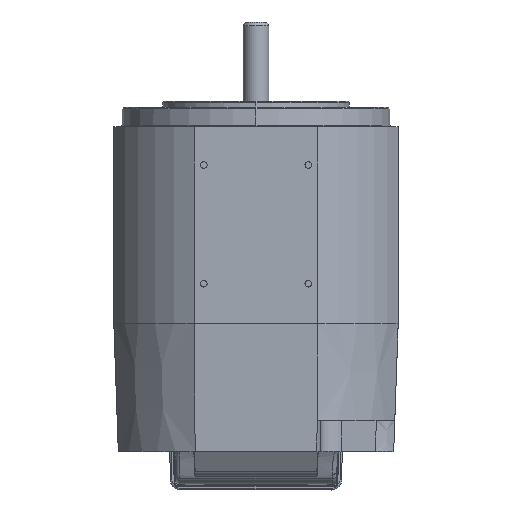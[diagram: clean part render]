
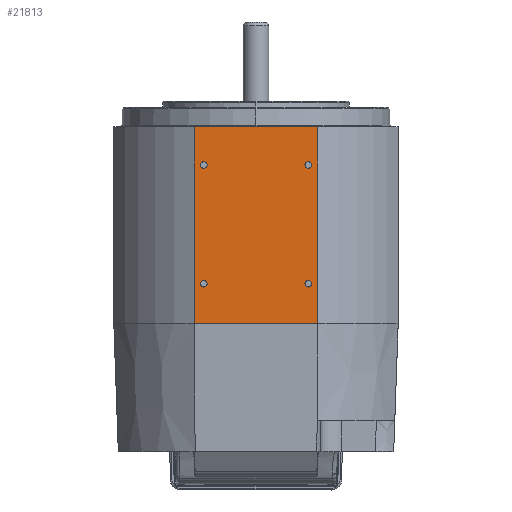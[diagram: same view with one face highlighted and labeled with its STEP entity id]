
A CAD part, top view. The second image highlights one B-rep face of the part: STEP entity #21813.
In plain terms, the highlighted planar face has unit normal (0, 0, 1).
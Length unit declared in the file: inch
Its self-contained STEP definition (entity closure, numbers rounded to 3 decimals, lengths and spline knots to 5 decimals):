
#36 = CARTESIAN_POINT ( 'NONE',  ( 1.49107, -9.99149, 3.42991 ) ) ;
#462 = AXIS2_PLACEMENT_3D ( 'NONE', #5227, #60216, #50311 ) ;
#2071 = ORIENTED_EDGE ( 'NONE', *, *, #41430, .T. ) ;
#2311 = CARTESIAN_POINT ( 'NONE',  ( -1.26, 0.7, 3.42991 ) ) ;
#3081 = ORIENTED_EDGE ( 'NONE', *, *, #6481, .F. ) ;
#3279 = DIRECTION ( 'NONE',  ( 0., 0., 1. ) ) ;
#4234 = CIRCLE ( 'NONE', #62382, 0.0795 ) ;
#4282 = VERTEX_POINT ( 'NONE', #39814 ) ;
#4507 = LINE ( 'NONE', #19719, #29313 ) ;
#4517 = CARTESIAN_POINT ( 'NONE',  ( 1.49107, 4.485, 3.42991 ) ) ;
#4612 = EDGE_LOOP ( 'NONE', ( #3081, #8931 ) ) ;
#5227 = CARTESIAN_POINT ( 'NONE',  ( 1.261, 3.565, 3.42991 ) ) ;
#6000 = VERTEX_POINT ( 'NONE', #11815 ) ;
#6308 = ORIENTED_EDGE ( 'NONE', *, *, #60283, .F. ) ;
#6445 = LINE ( 'NONE', #46871, #24601 ) ;
#6481 = EDGE_CURVE ( 'NONE', #36935, #4282, #51901, .T. ) ;
#6584 = VERTEX_POINT ( 'NONE', #9193 ) ;
#7264 = CARTESIAN_POINT ( 'NONE',  ( 1.261, 0.7, 3.42991 ) ) ;
#8016 = VECTOR ( 'NONE', #15860, 39.37008 ) ;
#8045 = EDGE_LOOP ( 'NONE', ( #13233, #6308 ) ) ;
#8527 = EDGE_CURVE ( 'NONE', #6584, #48622, #48987, .T. ) ;
#8931 = ORIENTED_EDGE ( 'NONE', *, *, #30524, .F. ) ;
#9193 = CARTESIAN_POINT ( 'NONE',  ( -1.1805, 3.565, 3.42991 ) ) ;
#9779 = DIRECTION ( 'NONE',  ( 0., 0., 1. ) ) ;
#10224 = VERTEX_POINT ( 'NONE', #24162 ) ;
#10526 = AXIS2_PLACEMENT_3D ( 'NONE', #21165, #26757, #17212 ) ;
#11815 = CARTESIAN_POINT ( 'NONE',  ( 1.49107, -0.26545, 3.42991 ) ) ;
#12116 = LINE ( 'NONE', #32600, #18680 ) ;
#12826 = ORIENTED_EDGE ( 'NONE', *, *, #43771, .F. ) ;
#13233 = ORIENTED_EDGE ( 'NONE', *, *, #48499, .F. ) ;
#13326 = VERTEX_POINT ( 'NONE', #29714 ) ;
#13797 = AXIS2_PLACEMENT_3D ( 'NONE', #63208, #46986, #52939 ) ;
#14539 = PLANE ( 'NONE',  #19475 ) ;
#15216 = EDGE_CURVE ( 'NONE', #49907, #59377, #12116, .T. ) ;
#15290 = DIRECTION ( 'NONE',  ( 1., 0., 0. ) ) ;
#15860 = DIRECTION ( 'NONE',  ( 0., 1., 0. ) ) ;
#16061 = CIRCLE ( 'NONE', #39335, 0.0795 ) ;
#16857 = CARTESIAN_POINT ( 'NONE',  ( -1.49107, -9.99149, 3.42991 ) ) ;
#17212 = DIRECTION ( 'NONE',  ( 1., 0., 0. ) ) ;
#18319 = EDGE_LOOP ( 'NONE', ( #47237, #2071, #59119, #48233 ) ) ;
#18680 = VECTOR ( 'NONE', #27992, 39.37008 ) ;
#18717 = CARTESIAN_POINT ( 'NONE',  ( -1.3395, 0.7, 3.42991 ) ) ;
#19475 = AXIS2_PLACEMENT_3D ( 'NONE', #36, #25380, #21438 ) ;
#19555 = CARTESIAN_POINT ( 'NONE',  ( -1.49107, 4.485, 3.42991 ) ) ;
#19686 = CIRCLE ( 'NONE', #62014, 0.0795 ) ;
#19719 = CARTESIAN_POINT ( 'NONE',  ( 1.49107, -9.99149, 3.42991 ) ) ;
#20364 = AXIS2_PLACEMENT_3D ( 'NONE', #40560, #9779, #39897 ) ;
#21165 = CARTESIAN_POINT ( 'NONE',  ( 1.261, 0.7, 3.42991 ) ) ;
#21438 = DIRECTION ( 'NONE',  ( 0., 1., 0. ) ) ;
#21813 = ADVANCED_FACE ( 'NONE', ( #29396, #59917, #24116, #44388, #59610 ), #14539, .F. ) ;
#22212 = CARTESIAN_POINT ( 'NONE',  ( 1.3405, 3.565, 3.42991 ) ) ;
#22694 = DIRECTION ( 'NONE',  ( 1., 0., 0. ) ) ;
#24012 = EDGE_CURVE ( 'NONE', #6000, #49907, #4507, .T. ) ;
#24116 = FACE_BOUND ( 'NONE', #57285, .T. ) ;
#24162 = CARTESIAN_POINT ( 'NONE',  ( 1.1815, 3.565, 3.42991 ) ) ;
#24601 = VECTOR ( 'NONE', #55533, 39.37008 ) ;
#25190 = AXIS2_PLACEMENT_3D ( 'NONE', #60682, #50126, #15290 ) ;
#25380 = DIRECTION ( 'NONE',  ( 0., 0., -1. ) ) ;
#26757 = DIRECTION ( 'NONE',  ( 0., 0., 1. ) ) ;
#27992 = DIRECTION ( 'NONE',  ( -1., 0., 0. ) ) ;
#29313 = VECTOR ( 'NONE', #39257, 39.37008 ) ;
#29396 = FACE_BOUND ( 'NONE', #8045, .T. ) ;
#29714 = CARTESIAN_POINT ( 'NONE',  ( 1.1815, 0.7, 3.42991 ) ) ;
#30524 = EDGE_CURVE ( 'NONE', #4282, #36935, #19686, .T. ) ;
#32600 = CARTESIAN_POINT ( 'NONE',  ( 1.49107, 4.485, 3.42991 ) ) ;
#32606 = DIRECTION ( 'NONE',  ( 0., 0., 1. ) ) ;
#32955 = CARTESIAN_POINT ( 'NONE',  ( 1.3405, 0.7, 3.42991 ) ) ;
#34284 = ORIENTED_EDGE ( 'NONE', *, *, #62750, .F. ) ;
#36935 = VERTEX_POINT ( 'NONE', #18717 ) ;
#38680 = DIRECTION ( 'NONE',  ( 0., 0., 1. ) ) ;
#39257 = DIRECTION ( 'NONE',  ( 0., 1., 0. ) ) ;
#39335 = AXIS2_PLACEMENT_3D ( 'NONE', #48261, #32606, #22694 ) ;
#39814 = CARTESIAN_POINT ( 'NONE',  ( -1.1805, 0.7, 3.42991 ) ) ;
#39897 = DIRECTION ( 'NONE',  ( 1., 0., 0. ) ) ;
#40022 = ORIENTED_EDGE ( 'NONE', *, *, #53826, .F. ) ;
#40560 = CARTESIAN_POINT ( 'NONE',  ( -1.26, 3.565, 3.42991 ) ) ;
#40636 = EDGE_LOOP ( 'NONE', ( #40022, #12826 ) ) ;
#41430 = EDGE_CURVE ( 'NONE', #46392, #6000, #6445, .T. ) ;
#43307 = CIRCLE ( 'NONE', #10526, 0.0795 ) ;
#43771 = EDGE_CURVE ( 'NONE', #62289, #10224, #57557, .T. ) ;
#44388 = FACE_BOUND ( 'NONE', #4612, .T. ) ;
#46392 = VERTEX_POINT ( 'NONE', #62232 ) ;
#46432 = EDGE_CURVE ( 'NONE', #46392, #59377, #51003, .T. ) ;
#46871 = CARTESIAN_POINT ( 'NONE',  ( 1.49107, -0.26545, 3.42991 ) ) ;
#46986 = DIRECTION ( 'NONE',  ( 0., 0., 1. ) ) ;
#47237 = ORIENTED_EDGE ( 'NONE', *, *, #46432, .F. ) ;
#48233 = ORIENTED_EDGE ( 'NONE', *, *, #15216, .T. ) ;
#48261 = CARTESIAN_POINT ( 'NONE',  ( -1.26, 3.565, 3.42991 ) ) ;
#48499 = EDGE_CURVE ( 'NONE', #13326, #59743, #4234, .T. ) ;
#48622 = VERTEX_POINT ( 'NONE', #59878 ) ;
#48987 = CIRCLE ( 'NONE', #20364, 0.0795 ) ;
#49907 = VERTEX_POINT ( 'NONE', #4517 ) ;
#50126 = DIRECTION ( 'NONE',  ( 0., 0., 1. ) ) ;
#50311 = DIRECTION ( 'NONE',  ( 1., 0., 0. ) ) ;
#51003 = LINE ( 'NONE', #16857, #8016 ) ;
#51901 = CIRCLE ( 'NONE', #13797, 0.0795 ) ;
#52939 = DIRECTION ( 'NONE',  ( 1., 0., 0. ) ) ;
#52972 = DIRECTION ( 'NONE',  ( 1., 0., 0. ) ) ;
#52982 = DIRECTION ( 'NONE',  ( 1., 0., 0. ) ) ;
#53826 = EDGE_CURVE ( 'NONE', #10224, #62289, #57027, .T. ) ;
#54994 = ORIENTED_EDGE ( 'NONE', *, *, #8527, .F. ) ;
#55533 = DIRECTION ( 'NONE',  ( 1., 0., 0. ) ) ;
#57027 = CIRCLE ( 'NONE', #25190, 0.0795 ) ;
#57285 = EDGE_LOOP ( 'NONE', ( #34284, #54994 ) ) ;
#57557 = CIRCLE ( 'NONE', #462, 0.0795 ) ;
#59119 = ORIENTED_EDGE ( 'NONE', *, *, #24012, .T. ) ;
#59377 = VERTEX_POINT ( 'NONE', #19555 ) ;
#59610 = FACE_OUTER_BOUND ( 'NONE', #18319, .T. ) ;
#59743 = VERTEX_POINT ( 'NONE', #32955 ) ;
#59878 = CARTESIAN_POINT ( 'NONE',  ( -1.3395, 3.565, 3.42991 ) ) ;
#59917 = FACE_BOUND ( 'NONE', #40636, .T. ) ;
#60216 = DIRECTION ( 'NONE',  ( 0., 0., 1. ) ) ;
#60283 = EDGE_CURVE ( 'NONE', #59743, #13326, #43307, .T. ) ;
#60682 = CARTESIAN_POINT ( 'NONE',  ( 1.261, 3.565, 3.42991 ) ) ;
#62014 = AXIS2_PLACEMENT_3D ( 'NONE', #2311, #3279, #52972 ) ;
#62232 = CARTESIAN_POINT ( 'NONE',  ( -1.49107, -0.26545, 3.42991 ) ) ;
#62289 = VERTEX_POINT ( 'NONE', #22212 ) ;
#62382 = AXIS2_PLACEMENT_3D ( 'NONE', #7264, #38680, #52982 ) ;
#62750 = EDGE_CURVE ( 'NONE', #48622, #6584, #16061, .T. ) ;
#63208 = CARTESIAN_POINT ( 'NONE',  ( -1.26, 0.7, 3.42991 ) ) ;
